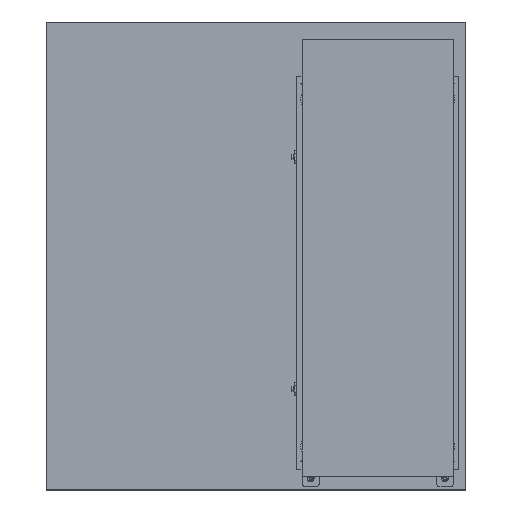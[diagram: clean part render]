
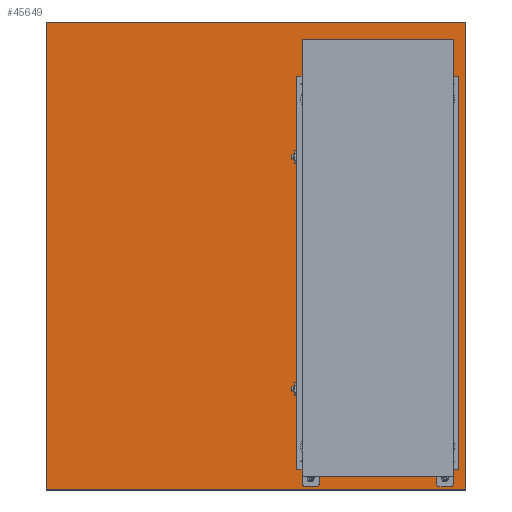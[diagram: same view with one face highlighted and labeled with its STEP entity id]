
A CAD part, top view. The second image highlights one B-rep face of the part: STEP entity #45649.
In plain terms, the highlighted planar face has unit normal (0, 0, 1) as drawn and (-1, 0, 0) by its records, which use the part's own axes.
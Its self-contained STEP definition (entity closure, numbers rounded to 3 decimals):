
#204 = CARTESIAN_POINT ( 'NONE',  ( 0.54, 50238.616, -1200. ) ) ;
#1492 = CARTESIAN_POINT ( 'NONE',  ( 0.54, 51632.617, -1200. ) ) ;
#2382 = LINE ( 'NONE', #22631, #41227 ) ;
#4656 = DIRECTION ( 'NONE',  ( 0., -1., 0. ) ) ;
#7080 = CARTESIAN_POINT ( 'NONE',  ( 0.54, 51632.617, -1200. ) ) ;
#8525 = ORIENTED_EDGE ( 'NONE', *, *, #25922, .F. ) ;
#9410 = VERTEX_POINT ( 'NONE', #204 ) ;
#10097 = CARTESIAN_POINT ( 'NONE',  ( 0.54, 50238.616, 50. ) ) ;
#13447 = ORIENTED_EDGE ( 'NONE', *, *, #44808, .F. ) ;
#18293 = DIRECTION ( 'NONE',  ( 0., -1., 0. ) ) ;
#19430 = DIRECTION ( 'NONE',  ( 0., 0., 1. ) ) ;
#20781 = EDGE_LOOP ( 'NONE', ( #24309, #8525, #13447, #44229 ) ) ;
#22631 = CARTESIAN_POINT ( 'NONE',  ( 0.54, 51632.617, 50. ) ) ;
#24309 = ORIENTED_EDGE ( 'NONE', *, *, #38144, .T. ) ;
#25014 = PLANE ( 'NONE',  #43879 ) ;
#25922 = EDGE_CURVE ( 'NONE', #36892, #27717, #2382, .T. ) ;
#27717 = VERTEX_POINT ( 'NONE', #10097 ) ;
#27776 = EDGE_CURVE ( 'NONE', #40473, #9410, #44994, .T. ) ;
#30288 = VECTOR ( 'NONE', #19430, 1000. ) ;
#30888 = VECTOR ( 'NONE', #38220, 1000. ) ;
#32003 = CARTESIAN_POINT ( 'NONE',  ( 0.54, 51632.617, -1200. ) ) ;
#32271 = DIRECTION ( 'NONE',  ( -1., 0., 0. ) ) ;
#32462 = FACE_OUTER_BOUND ( 'NONE', #20781, .T. ) ;
#35882 = DIRECTION ( 'NONE',  ( 0., 0., 1. ) ) ;
#35965 = LINE ( 'NONE', #41652, #30888 ) ;
#36892 = VERTEX_POINT ( 'NONE', #43893 ) ;
#36936 = CARTESIAN_POINT ( 'NONE',  ( 0.54, 51632.617, -1200. ) ) ;
#38144 = EDGE_CURVE ( 'NONE', #9410, #27717, #35965, .T. ) ;
#38220 = DIRECTION ( 'NONE',  ( 0., 0., 1. ) ) ;
#38786 = LINE ( 'NONE', #1492, #30288 ) ;
#40473 = VERTEX_POINT ( 'NONE', #36936 ) ;
#41227 = VECTOR ( 'NONE', #4656, 1000. ) ;
#41652 = CARTESIAN_POINT ( 'NONE',  ( 0.54, 50238.616, -1200. ) ) ;
#43879 = AXIS2_PLACEMENT_3D ( 'NONE', #7080, #32271, #35882 ) ;
#43893 = CARTESIAN_POINT ( 'NONE',  ( 0.54, 51632.617, 50. ) ) ;
#44229 = ORIENTED_EDGE ( 'NONE', *, *, #27776, .T. ) ;
#44808 = EDGE_CURVE ( 'NONE', #40473, #36892, #38786, .T. ) ;
#44994 = LINE ( 'NONE', #32003, #45557 ) ;
#45557 = VECTOR ( 'NONE', #18293, 1000. ) ;
#45649 = ADVANCED_FACE ( 'NONE', ( #32462 ), #25014, .T. ) ;
